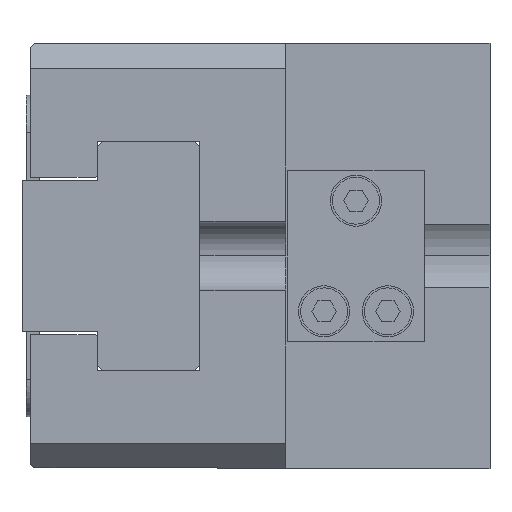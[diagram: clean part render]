
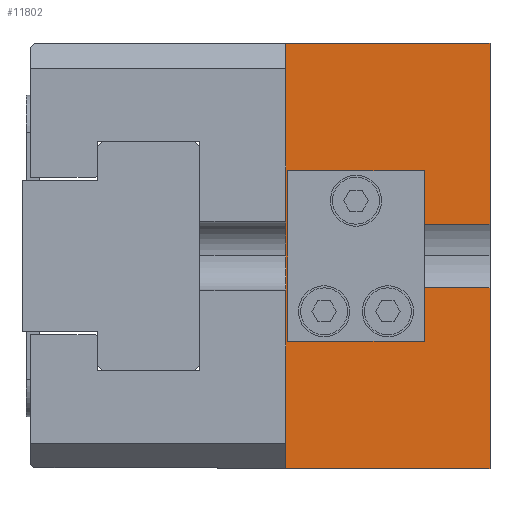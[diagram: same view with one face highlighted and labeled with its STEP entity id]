
A CAD part, left-side view. The second image highlights one B-rep face of the part: STEP entity #11802.
In plain terms, the highlighted planar face has unit normal (-1, 0, 0).
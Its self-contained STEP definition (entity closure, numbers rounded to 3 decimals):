
#3 = CIRCLE ( 'NONE', #5078, 1.229 ) ;
#460 = ORIENTED_EDGE ( 'NONE', *, *, #5582, .F. ) ;
#554 = ORIENTED_EDGE ( 'NONE', *, *, #2060, .T. ) ;
#612 = CARTESIAN_POINT ( 'NONE',  ( -40.5, 7.75, -3.75 ) ) ;
#694 = EDGE_CURVE ( 'NONE', #2204, #13264, #2892, .T. ) ;
#1220 = CIRCLE ( 'NONE', #6025, 1.229 ) ;
#1287 = LINE ( 'NONE', #6540, #5353 ) ;
#1370 = LINE ( 'NONE', #612, #10739 ) ;
#1972 = DIRECTION ( 'NONE',  ( 0., 0., 1. ) ) ;
#2060 = EDGE_CURVE ( 'NONE', #15211, #14091, #14027, .T. ) ;
#2204 = VERTEX_POINT ( 'NONE', #12053 ) ;
#2317 = ORIENTED_EDGE ( 'NONE', *, *, #7736, .T. ) ;
#2555 = EDGE_CURVE ( 'NONE', #5423, #16397, #1220, .T. ) ;
#2783 = DIRECTION ( 'NONE',  ( 0., 0., 1. ) ) ;
#2892 = LINE ( 'NONE', #8333, #15908 ) ;
#2919 = VERTEX_POINT ( 'NONE', #16609 ) ;
#3039 = AXIS2_PLACEMENT_3D ( 'NONE', #15884, #5375, #14477 ) ;
#3192 = VERTEX_POINT ( 'NONE', #13573 ) ;
#3221 = CARTESIAN_POINT ( 'NONE',  ( -40.5, 0., 25. ) ) ;
#3795 = CARTESIAN_POINT ( 'NONE',  ( -40.5, 19.5, -5.271 ) ) ;
#3845 = EDGE_CURVE ( 'NONE', #2919, #5938, #1370, .T. ) ;
#4082 = LINE ( 'NONE', #13204, #11000 ) ;
#4141 = ORIENTED_EDGE ( 'NONE', *, *, #694, .T. ) ;
#4334 = ORIENTED_EDGE ( 'NONE', *, *, #5776, .F. ) ;
#4422 = VERTEX_POINT ( 'NONE', #5273 ) ;
#4941 = CARTESIAN_POINT ( 'NONE',  ( -40.5, 24., -25. ) ) ;
#5078 = AXIS2_PLACEMENT_3D ( 'NONE', #12335, #12446, #1972 ) ;
#5273 = CARTESIAN_POINT ( 'NONE',  ( -40.5, 7.75, 3.75 ) ) ;
#5353 = VECTOR ( 'NONE', #6652, 1000. ) ;
#5375 = DIRECTION ( 'NONE',  ( 1., 0., 0. ) ) ;
#5423 = VERTEX_POINT ( 'NONE', #12690 ) ;
#5582 = EDGE_CURVE ( 'NONE', #15339, #3192, #11096, .T. ) ;
#5598 = VECTOR ( 'NONE', #16008, 1000. ) ;
#5761 = VECTOR ( 'NONE', #6137, 1000. ) ;
#5776 = EDGE_CURVE ( 'NONE', #4422, #5938, #9447, .T. ) ;
#5839 = VERTEX_POINT ( 'NONE', #7814 ) ;
#5896 = EDGE_CURVE ( 'NONE', #2919, #5839, #1287, .T. ) ;
#5937 = FACE_BOUND ( 'NONE', #12167, .T. ) ;
#5938 = VERTEX_POINT ( 'NONE', #10421 ) ;
#6025 = AXIS2_PLACEMENT_3D ( 'NONE', #8456, #16314, #7179 ) ;
#6122 = EDGE_CURVE ( 'NONE', #4422, #3192, #8838, .T. ) ;
#6137 = DIRECTION ( 'NONE',  ( 0., 0., -1. ) ) ;
#6540 = CARTESIAN_POINT ( 'NONE',  ( -40.5, 0., 25. ) ) ;
#6587 = VECTOR ( 'NONE', #15241, 1000. ) ;
#6651 = CARTESIAN_POINT ( 'NONE',  ( -40.5, 0., 25. ) ) ;
#6652 = DIRECTION ( 'NONE',  ( 0., 0., -1. ) ) ;
#6921 = EDGE_LOOP ( 'NONE', ( #554, #2317 ) ) ;
#7179 = DIRECTION ( 'NONE',  ( 0., 0., 1. ) ) ;
#7210 = ORIENTED_EDGE ( 'NONE', *, *, #6122, .T. ) ;
#7495 = ORIENTED_EDGE ( 'NONE', *, *, #13727, .F. ) ;
#7653 = ORIENTED_EDGE ( 'NONE', *, *, #13746, .T. ) ;
#7736 = EDGE_CURVE ( 'NONE', #14091, #15211, #3, .T. ) ;
#7814 = CARTESIAN_POINT ( 'NONE',  ( -40.5, 0., -25. ) ) ;
#8007 = ORIENTED_EDGE ( 'NONE', *, *, #10046, .T. ) ;
#8333 = CARTESIAN_POINT ( 'NONE',  ( -40.5, 24., 25. ) ) ;
#8456 = CARTESIAN_POINT ( 'NONE',  ( -40.5, 12., -6.5 ) ) ;
#8528 = ORIENTED_EDGE ( 'NONE', *, *, #3845, .T. ) ;
#8602 = FACE_OUTER_BOUND ( 'NONE', #15845, .T. ) ;
#8838 = LINE ( 'NONE', #12052, #13257 ) ;
#9447 = LINE ( 'NONE', #16785, #5761 ) ;
#9705 = DIRECTION ( 'NONE',  ( 0., 1., 0. ) ) ;
#10046 = EDGE_CURVE ( 'NONE', #15339, #2204, #11913, .T. ) ;
#10261 = CARTESIAN_POINT ( 'NONE',  ( -40.5, 0., 25. ) ) ;
#10313 = CARTESIAN_POINT ( 'NONE',  ( -40.5, 19.5, -6.5 ) ) ;
#10362 = DIRECTION ( 'NONE',  ( 1., 0., 0. ) ) ;
#10421 = CARTESIAN_POINT ( 'NONE',  ( -40.5, 7.75, -3.75 ) ) ;
#10739 = VECTOR ( 'NONE', #9705, 1000. ) ;
#10873 = AXIS2_PLACEMENT_3D ( 'NONE', #6651, #15750, #2783 ) ;
#10932 = DIRECTION ( 'NONE',  ( 0., 0., -1. ) ) ;
#11000 = VECTOR ( 'NONE', #13265, 1000. ) ;
#11096 = LINE ( 'NONE', #10261, #6587 ) ;
#11144 = ORIENTED_EDGE ( 'NONE', *, *, #2555, .T. ) ;
#11195 = CIRCLE ( 'NONE', #3039, 1.229 ) ;
#11802 = ADVANCED_FACE ( 'NONE', ( #8602, #16108, #5937 ), #11829, .T. ) ;
#11829 = PLANE ( 'NONE',  #10873 ) ;
#11858 = CARTESIAN_POINT ( 'NONE',  ( -40.5, 0., 25. ) ) ;
#11913 = LINE ( 'NONE', #3221, #5598 ) ;
#12052 = CARTESIAN_POINT ( 'NONE',  ( -40.5, 7.75, 3.75 ) ) ;
#12053 = CARTESIAN_POINT ( 'NONE',  ( -40.5, 24., 25. ) ) ;
#12167 = EDGE_LOOP ( 'NONE', ( #7653, #11144 ) ) ;
#12335 = CARTESIAN_POINT ( 'NONE',  ( -40.5, 19.5, -6.5 ) ) ;
#12446 = DIRECTION ( 'NONE',  ( 1., 0., 0. ) ) ;
#12690 = CARTESIAN_POINT ( 'NONE',  ( -40.5, 12., -7.73 ) ) ;
#12824 = ORIENTED_EDGE ( 'NONE', *, *, #5896, .F. ) ;
#13204 = CARTESIAN_POINT ( 'NONE',  ( -40.5, 0., -25. ) ) ;
#13257 = VECTOR ( 'NONE', #13350, 1000. ) ;
#13264 = VERTEX_POINT ( 'NONE', #4941 ) ;
#13265 = DIRECTION ( 'NONE',  ( 0., 1., 0. ) ) ;
#13306 = AXIS2_PLACEMENT_3D ( 'NONE', #10313, #10362, #14444 ) ;
#13350 = DIRECTION ( 'NONE',  ( 0., -1., 0. ) ) ;
#13573 = CARTESIAN_POINT ( 'NONE',  ( -40.5, 0., 3.75 ) ) ;
#13727 = EDGE_CURVE ( 'NONE', #5839, #13264, #4082, .T. ) ;
#13746 = EDGE_CURVE ( 'NONE', #16397, #5423, #11195, .T. ) ;
#14027 = CIRCLE ( 'NONE', #13306, 1.229 ) ;
#14091 = VERTEX_POINT ( 'NONE', #16504 ) ;
#14444 = DIRECTION ( 'NONE',  ( 0., 0., 1. ) ) ;
#14477 = DIRECTION ( 'NONE',  ( 0., 0., 1. ) ) ;
#15211 = VERTEX_POINT ( 'NONE', #3795 ) ;
#15241 = DIRECTION ( 'NONE',  ( 0., 0., -1. ) ) ;
#15339 = VERTEX_POINT ( 'NONE', #11858 ) ;
#15750 = DIRECTION ( 'NONE',  ( -1., 0., 0. ) ) ;
#15845 = EDGE_LOOP ( 'NONE', ( #12824, #8528, #4334, #7210, #460, #8007, #4141, #7495 ) ) ;
#15884 = CARTESIAN_POINT ( 'NONE',  ( -40.5, 12., -6.5 ) ) ;
#15908 = VECTOR ( 'NONE', #10932, 1000. ) ;
#16008 = DIRECTION ( 'NONE',  ( 0., 1., 0. ) ) ;
#16108 = FACE_BOUND ( 'NONE', #6921, .T. ) ;
#16281 = CARTESIAN_POINT ( 'NONE',  ( -40.5, 12., -5.271 ) ) ;
#16314 = DIRECTION ( 'NONE',  ( 1., 0., 0. ) ) ;
#16397 = VERTEX_POINT ( 'NONE', #16281 ) ;
#16504 = CARTESIAN_POINT ( 'NONE',  ( -40.5, 19.5, -7.73 ) ) ;
#16609 = CARTESIAN_POINT ( 'NONE',  ( -40.5, 0., -3.75 ) ) ;
#16785 = CARTESIAN_POINT ( 'NONE',  ( -40.5, 7.75, 0. ) ) ;
